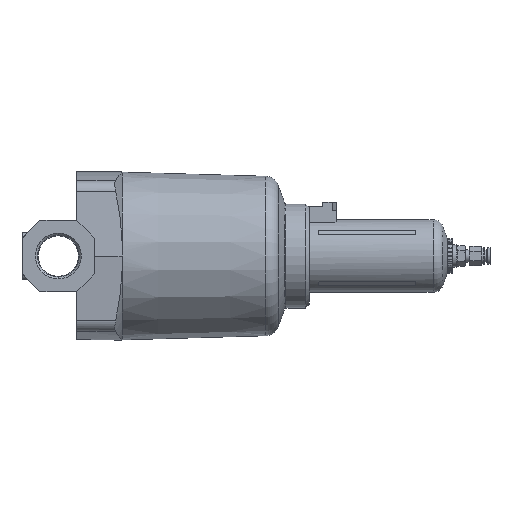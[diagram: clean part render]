
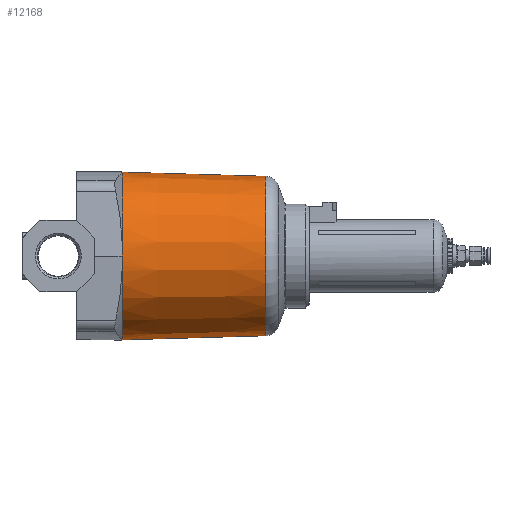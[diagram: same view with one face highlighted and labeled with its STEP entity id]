
A CAD part, left-side view. The second image highlights one B-rep face of the part: STEP entity #12168.
In plain terms, the highlighted conical face has half-angle 1.628 degrees and reference radius 60.75 mm.
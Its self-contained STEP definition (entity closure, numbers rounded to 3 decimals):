
#345 = CIRCLE ( 'NONE', #5538, 60.75 ) ;
#554 = VERTEX_POINT ( 'NONE', #8606 ) ;
#1582 = AXIS2_PLACEMENT_3D ( 'NONE', #7597, #2647, #5660 ) ;
#2096 = CARTESIAN_POINT ( 'NONE',  ( 0., -150.21, 0. ) ) ;
#2520 = CARTESIAN_POINT ( 'NONE',  ( 0., -46.2, 0. ) ) ;
#2536 = CARTESIAN_POINT ( 'NONE',  ( -59.827, -46.2, -10.549 ) ) ;
#2647 = DIRECTION ( 'NONE',  ( 0., -1., 0. ) ) ;
#2759 = EDGE_CURVE ( 'NONE', #5442, #6203, #7978, .T. ) ;
#2789 = ORIENTED_EDGE ( 'NONE', *, *, #3454, .T. ) ;
#3054 = LINE ( 'NONE', #9827, #7627 ) ;
#3123 = DIRECTION ( 'NONE',  ( 0., 1., 0.028 ) ) ;
#3214 = CARTESIAN_POINT ( 'NONE',  ( 0., -46.2, -60.75 ) ) ;
#3263 = ORIENTED_EDGE ( 'NONE', *, *, #9769, .T. ) ;
#3311 = FACE_OUTER_BOUND ( 'NONE', #3885, .T. ) ;
#3454 = EDGE_CURVE ( 'NONE', #554, #5032, #3054, .T. ) ;
#3574 = DIRECTION ( 'NONE',  ( 0., -1., 0. ) ) ;
#3879 = CARTESIAN_POINT ( 'NONE',  ( 0., -46.2, 60.75 ) ) ;
#3885 = EDGE_LOOP ( 'NONE', ( #11245, #5581, #2789, #5297, #7936, #6047, #3263 ) ) ;
#4271 = AXIS2_PLACEMENT_3D ( 'NONE', #2096, #11992, #11013 ) ;
#4283 = CIRCLE ( 'NONE', #1582, 60.75 ) ;
#4526 = CARTESIAN_POINT ( 'NONE',  ( 0., -46.2, -60.75 ) ) ;
#4537 = VECTOR ( 'NONE', #7185, 1000. ) ;
#4609 = CARTESIAN_POINT ( 'NONE',  ( -60.75, -46.2, 0. ) ) ;
#5032 = VERTEX_POINT ( 'NONE', #3879 ) ;
#5136 = AXIS2_PLACEMENT_3D ( 'NONE', #8448, #3574, #7599 ) ;
#5297 = ORIENTED_EDGE ( 'NONE', *, *, #10719, .T. ) ;
#5418 = DIRECTION ( 'NONE',  ( 0., 0., 1. ) ) ;
#5442 = VERTEX_POINT ( 'NONE', #10062 ) ;
#5538 = AXIS2_PLACEMENT_3D ( 'NONE', #2520, #11510, #7475 ) ;
#5539 = CARTESIAN_POINT ( 'NONE',  ( 0., -46.2, 0. ) ) ;
#5581 = ORIENTED_EDGE ( 'NONE', *, *, #9696, .F. ) ;
#5660 = DIRECTION ( 'NONE',  ( 0., 0., -1. ) ) ;
#5867 = VERTEX_POINT ( 'NONE', #4609 ) ;
#6047 = ORIENTED_EDGE ( 'NONE', *, *, #11418, .T. ) ;
#6203 = VERTEX_POINT ( 'NONE', #4526 ) ;
#6343 = CARTESIAN_POINT ( 'NONE',  ( -59.827, -46.2, 10.549 ) ) ;
#6513 = VERTEX_POINT ( 'NONE', #6343 ) ;
#6556 = AXIS2_PLACEMENT_3D ( 'NONE', #5539, #8587, #8451 ) ;
#7185 = DIRECTION ( 'NONE',  ( 0., 1., -0.028 ) ) ;
#7384 = CIRCLE ( 'NONE', #6556, 60.75 ) ;
#7475 = DIRECTION ( 'NONE',  ( 0., 0., -1. ) ) ;
#7533 = CONICAL_SURFACE ( 'NONE', #9004, 60.75, 0.028 ) ;
#7597 = CARTESIAN_POINT ( 'NONE',  ( 0., -46.2, 0. ) ) ;
#7599 = DIRECTION ( 'NONE',  ( 0., 0., 1. ) ) ;
#7627 = VECTOR ( 'NONE', #3123, 1000. ) ;
#7936 = ORIENTED_EDGE ( 'NONE', *, *, #11458, .T. ) ;
#7978 = LINE ( 'NONE', #3214, #4537 ) ;
#8173 = VERTEX_POINT ( 'NONE', #2536 ) ;
#8448 = CARTESIAN_POINT ( 'NONE',  ( 0., -46.2, 0. ) ) ;
#8451 = DIRECTION ( 'NONE',  ( 0., 0., 1. ) ) ;
#8587 = DIRECTION ( 'NONE',  ( 0., -1., 0. ) ) ;
#8606 = CARTESIAN_POINT ( 'NONE',  ( 0., -150.21, 57.793 ) ) ;
#8855 = CIRCLE ( 'NONE', #5136, 60.75 ) ;
#9004 = AXIS2_PLACEMENT_3D ( 'NONE', #12120, #12242, #5418 ) ;
#9696 = EDGE_CURVE ( 'NONE', #554, #5442, #12394, .T. ) ;
#9769 = EDGE_CURVE ( 'NONE', #8173, #6203, #8855, .T. ) ;
#9827 = CARTESIAN_POINT ( 'NONE',  ( 0., -46.2, 60.75 ) ) ;
#10062 = CARTESIAN_POINT ( 'NONE',  ( 0., -150.21, -57.793 ) ) ;
#10719 = EDGE_CURVE ( 'NONE', #5032, #6513, #7384, .T. ) ;
#11013 = DIRECTION ( 'NONE',  ( 0., 0., -1. ) ) ;
#11245 = ORIENTED_EDGE ( 'NONE', *, *, #2759, .F. ) ;
#11418 = EDGE_CURVE ( 'NONE', #5867, #8173, #345, .T. ) ;
#11458 = EDGE_CURVE ( 'NONE', #6513, #5867, #4283, .T. ) ;
#11510 = DIRECTION ( 'NONE',  ( 0., -1., 0. ) ) ;
#11992 = DIRECTION ( 'NONE',  ( 0., -1., 0. ) ) ;
#12120 = CARTESIAN_POINT ( 'NONE',  ( 0., -46.2, 0. ) ) ;
#12168 = ADVANCED_FACE ( 'NONE', ( #3311 ), #7533, .T. ) ;
#12242 = DIRECTION ( 'NONE',  ( 0., 1., 0. ) ) ;
#12394 = CIRCLE ( 'NONE', #4271, 57.793 ) ;
